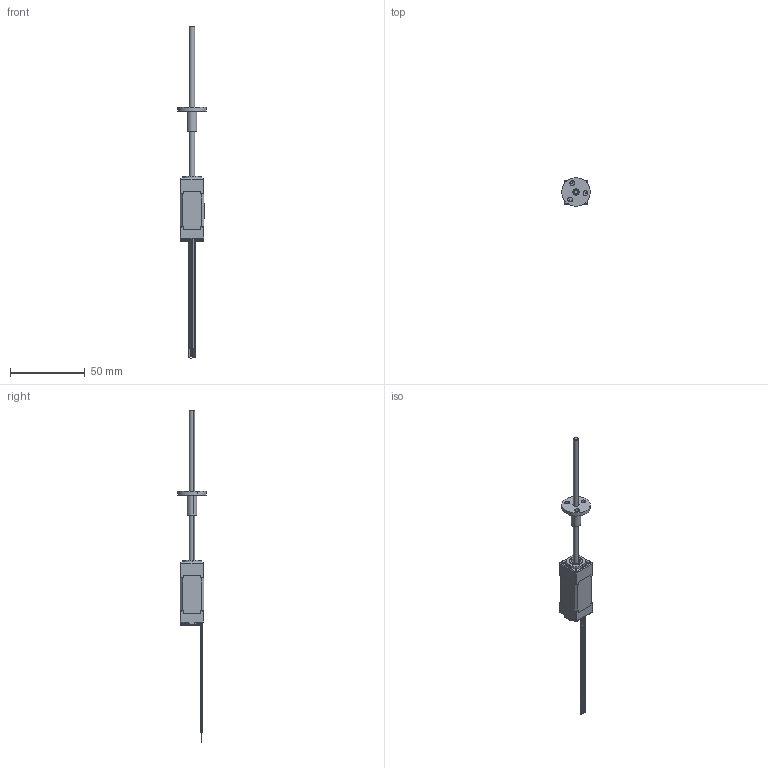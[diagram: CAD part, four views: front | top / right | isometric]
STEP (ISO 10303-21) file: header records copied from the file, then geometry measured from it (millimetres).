
FILE_DESCRIPTION (( 'STEP AP203' ), '1' );
FILE_NAME ('DS-EXTERNAL.STEP', '2025-08-27T08:16:42', ( '' ), ( '' ), 'SwSTEP 2.0', 'SolidWorks 2022', '' );
FILE_SCHEMA (( 'CONFIG_CONTROL_DESIGN' ));
Length unit declared in the file: millimetre
Products named in the file (1): DS-EXTERNAL
Bounding box: 19.03 x 19.03 x 221.44 mm (x, y, z)
Surface area: 6861.8 mm2 (no closed solid volume)
Topology: 0 solids, 22 shells, 315 faces, 951 edges, 644 vertices
Faces by surface type: cylinder 137, plane 120, torus 32, bspline 14, cone 10, sphere 2
Entity records: 12113 total; most frequent: CARTESIAN_POINT 3627, DIRECTION 1819, ORIENTED_EDGE 1542, EDGE_CURVE 943, AXIS2_PLACEMENT_3D 662, VERTEX_POINT 644, VECTOR 495, LINE 495
